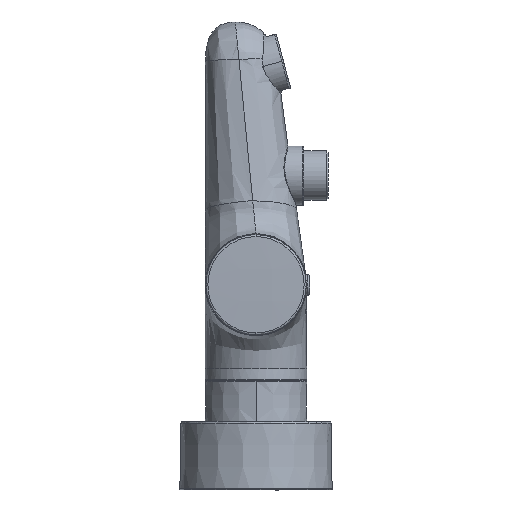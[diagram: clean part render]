
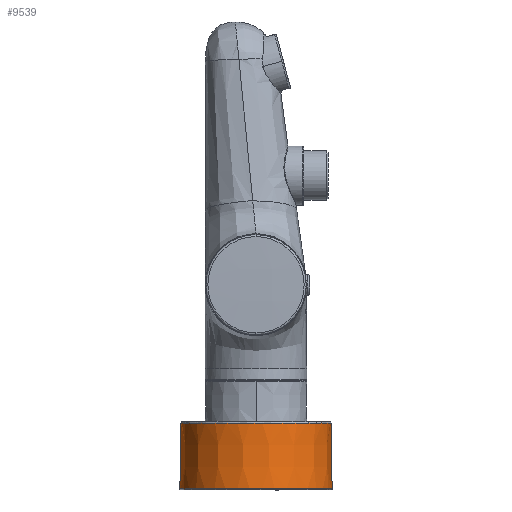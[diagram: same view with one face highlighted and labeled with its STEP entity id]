
A CAD part, left-side view. The second image highlights one B-rep face of the part: STEP entity #9539.
In plain terms, the highlighted conical face has half-angle 0.955 degrees and reference radius 29.991 mm.
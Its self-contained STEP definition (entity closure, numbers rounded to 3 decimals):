
#318 = CARTESIAN_POINT ( 'NONE',  ( -75., 39.86, -97.477 ) ) ;
#405 = DIRECTION ( 'NONE',  ( 0., -0.017, -1. ) ) ;
#570 = EDGE_CURVE ( 'NONE', #8683, #10835, #6479, .T. ) ;
#860 = CARTESIAN_POINT ( 'NONE',  ( -75., 40.291, -123.342 ) ) ;
#1247 = VERTEX_POINT ( 'NONE', #2281 ) ;
#1768 = ORIENTED_EDGE ( 'NONE', *, *, #12162, .T. ) ;
#1812 = AXIS2_PLACEMENT_3D ( 'NONE', #12533, #5939, #12681 ) ;
#1941 = DIRECTION ( 'NONE',  ( 0., -1., 0. ) ) ;
#2281 = CARTESIAN_POINT ( 'NONE',  ( -75., -19.691, -123.342 ) ) ;
#2573 = ORIENTED_EDGE ( 'NONE', *, *, #570, .T. ) ;
#2602 = CARTESIAN_POINT ( 'NONE',  ( -75., -19.691, -123.342 ) ) ;
#3114 = VERTEX_POINT ( 'NONE', #8108 ) ;
#3642 = LINE ( 'NONE', #2602, #9591 ) ;
#3653 = FACE_OUTER_BOUND ( 'NONE', #9833, .T. ) ;
#3660 = DIRECTION ( 'NONE',  ( -0.479, -0.878, 0. ) ) ;
#3690 = AXIS2_PLACEMENT_3D ( 'NONE', #7083, #11786, #10546 ) ;
#4672 = CIRCLE ( 'NONE', #1812, 29.56 ) ;
#5219 = CONICAL_SURFACE ( 'NONE', #11251, 29.991, 0.017 ) ;
#5312 = DIRECTION ( 'NONE',  ( 0., 0.017, -1. ) ) ;
#5557 = VERTEX_POINT ( 'NONE', #9645 ) ;
#5820 = ORIENTED_EDGE ( 'NONE', *, *, #11486, .F. ) ;
#5904 = CARTESIAN_POINT ( 'NONE',  ( -75., 10.3, -123.342 ) ) ;
#5939 = DIRECTION ( 'NONE',  ( 0., 0., -1. ) ) ;
#6201 = AXIS2_PLACEMENT_3D ( 'NONE', #5904, #12457, #3660 ) ;
#6378 = CARTESIAN_POINT ( 'NONE',  ( -75., 10.3, -123.342 ) ) ;
#6479 = CIRCLE ( 'NONE', #3690, 29.56 ) ;
#7083 = CARTESIAN_POINT ( 'NONE',  ( -75., 10.3, -97.477 ) ) ;
#7438 = CARTESIAN_POINT ( 'NONE',  ( -75., 10.3, -123.342 ) ) ;
#8108 = CARTESIAN_POINT ( 'NONE',  ( -75., 40.291, -123.342 ) ) ;
#8381 = DIRECTION ( 'NONE',  ( -0.479, -0.878, 0. ) ) ;
#8539 = VECTOR ( 'NONE', #5312, 1000. ) ;
#8683 = VERTEX_POINT ( 'NONE', #13327 ) ;
#9518 = EDGE_CURVE ( 'NONE', #10835, #3114, #10834, .T. ) ;
#9539 = ADVANCED_FACE ( 'NONE', ( #3653 ), #5219, .T. ) ;
#9567 = CIRCLE ( 'NONE', #6201, 29.991 ) ;
#9591 = VECTOR ( 'NONE', #405, 1000. ) ;
#9645 = CARTESIAN_POINT ( 'NONE',  ( -89.248, -16.091, -123.342 ) ) ;
#9833 = EDGE_LOOP ( 'NONE', ( #12094, #2573, #11073, #12376, #1768, #5820 ) ) ;
#10211 = VERTEX_POINT ( 'NONE', #10277 ) ;
#10277 = CARTESIAN_POINT ( 'NONE',  ( -75., -19.26, -97.477 ) ) ;
#10519 = AXIS2_PLACEMENT_3D ( 'NONE', #7438, #11966, #8381 ) ;
#10546 = DIRECTION ( 'NONE',  ( -0.479, -0.878, 0. ) ) ;
#10834 = LINE ( 'NONE', #860, #8539 ) ;
#10835 = VERTEX_POINT ( 'NONE', #318 ) ;
#11073 = ORIENTED_EDGE ( 'NONE', *, *, #9518, .T. ) ;
#11251 = AXIS2_PLACEMENT_3D ( 'NONE', #6378, #12005, #1941 ) ;
#11486 = EDGE_CURVE ( 'NONE', #10211, #1247, #3642, .T. ) ;
#11667 = CIRCLE ( 'NONE', #10519, 29.991 ) ;
#11786 = DIRECTION ( 'NONE',  ( 0., 0., -1. ) ) ;
#11966 = DIRECTION ( 'NONE',  ( 0., 0., 1. ) ) ;
#12005 = DIRECTION ( 'NONE',  ( 0., 0., -1. ) ) ;
#12094 = ORIENTED_EDGE ( 'NONE', *, *, #12714, .T. ) ;
#12162 = EDGE_CURVE ( 'NONE', #5557, #1247, #9567, .T. ) ;
#12376 = ORIENTED_EDGE ( 'NONE', *, *, #12440, .T. ) ;
#12440 = EDGE_CURVE ( 'NONE', #3114, #5557, #11667, .T. ) ;
#12457 = DIRECTION ( 'NONE',  ( 0., 0., 1. ) ) ;
#12533 = CARTESIAN_POINT ( 'NONE',  ( -75., 10.3, -97.477 ) ) ;
#12681 = DIRECTION ( 'NONE',  ( -0.479, -0.878, 0. ) ) ;
#12714 = EDGE_CURVE ( 'NONE', #10211, #8683, #4672, .T. ) ;
#13327 = CARTESIAN_POINT ( 'NONE',  ( -89.037, -15.715, -97.477 ) ) ;
